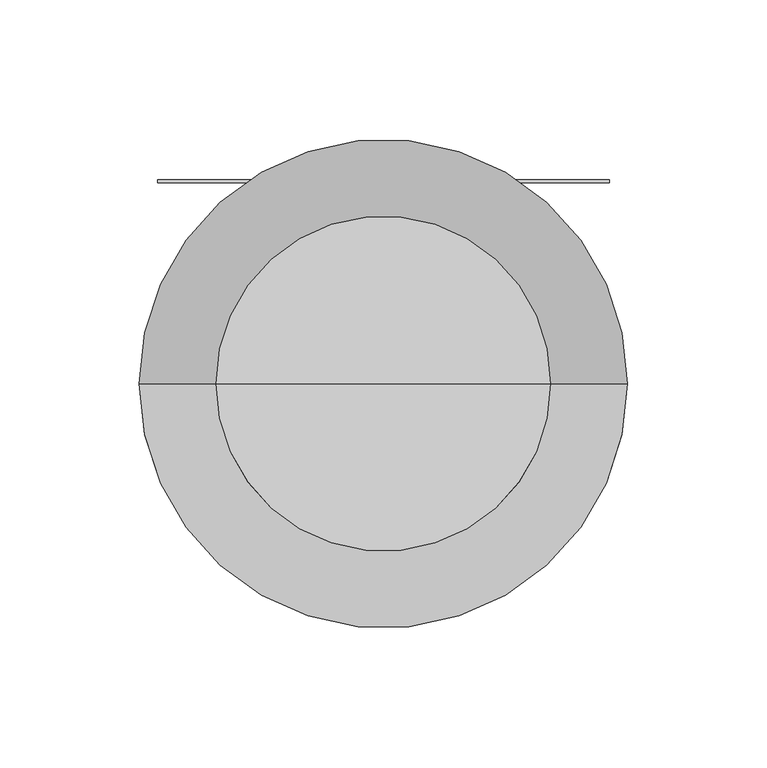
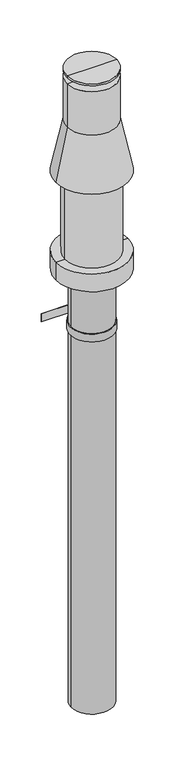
"""IFC4 building model written with IfcOpenShell, lengths in millimetres: air terminal geometry, NLRS_57_AIR_WPB_Skyline_M&G : EasySafe Skyline 3000 PP 60/100 XL Zwart."""

from ifc_helpers import new_model, si_unit, point, frame, origin, origin_2d, place, context, project, spatial, polyline, circle_curve, trimmed, segment, composite_curve, outline, extrude, source, transform, mapped, element, save
from ifc_brep_helpers import plane_surface, cylinder_surface, revolved_surface, advanced_brep


def air_terminal_e32a4596(model_context):
    return source(origin(), model_context, "Body", "SolidModel", [
        extrude(outline(composite_curve([segment(trimmed(circle_curve(origin_2d(), 50.0), [point((-50.0, 0.0))], [point((50.0, 0.0))], False, "CARTESIAN"), True, "CONTINUOUS"), segment(trimmed(circle_curve(origin_2d(), 50.0), [point((50.0, 0.0))], [point((-50.0, 0.0))], False, "CARTESIAN"), True, "CONTINUOUS")], self_intersect=False)), frame((0.0, 0.0, -1110.0), z_axis=(0.0, 0.0, 1.0), x_axis=(1.0, 0.0, 0.0)), (0.0, 0.0, 1.0), 1110.0),
        advanced_brep(
        [(60.0, 0.0, 514.0), (-60.0, 0.0, 514.0), (0.0, 0.0, 514.0), (87.5, 0.0, 250.0), (-87.5, 0.0, 250.0), (-60.0, 0.0, 382.0), (60.0, 0.0, 382.0), (0.0, 0.0, 250.0), (60.0, 0.0, 509.0), (-60.0, 0.0, 509.0), (8.0, 0.0, 499.0), (-8.0, 0.0, 499.0), (8.0, 0.0, 494.0), (-8.0, 0.0, 494.0), (60.0, 0.0, 494.0), (-60.0, 0.0, 494.0)],
        [
            (0, 1, circle_curve(frame((0.0, 0.0, 514.0), z_axis=(0.0, 0.0, 1.0), x_axis=(-1.0, 0.0, 0.0)), 60.0)),
            (1, 2),
            (2, 0),
            (1, 0, circle_curve(frame((0.0, 0.0, 514.0), z_axis=(0.0, 0.0, 1.0), x_axis=(-1.0, 0.0, 0.0)), 60.0)),
            (3, 4, circle_curve(frame((0.0, 0.0, 250.0), z_axis=(0.0, 0.0, 1.0), x_axis=(-1.0, 0.0, 0.0)), 87.5)),
            (4, 5),
            (5, 6, circle_curve(frame((0.0, 0.0, 382.0), z_axis=(0.0, 0.0, -1.0), x_axis=(-1.0, 0.0, 0.0)), 60.0)),
            (6, 3),
            (4, 3, circle_curve(frame((0.0, 0.0, 250.0), z_axis=(0.0, 0.0, 1.0), x_axis=(-1.0, 0.0, 0.0)), 87.5)),
            (6, 5, circle_curve(frame((0.0, 0.0, 382.0), z_axis=(0.0, 0.0, -1.0), x_axis=(-1.0, 0.0, 0.0)), 60.0)),
            (7, 4),
            (3, 7),
            (8, 9, circle_curve(frame((0.0, 0.0, 509.0), z_axis=(0.0, 0.0, 1.0), x_axis=(-1.0, 0.0, 0.0)), 60.0)),
            (9, 1),
            (0, 8),
            (9, 8, circle_curve(frame((0.0, 0.0, 509.0), z_axis=(0.0, 0.0, 1.0), x_axis=(-1.0, 0.0, 0.0)), 60.0)),
            (10, 11, circle_curve(frame((0.0, 0.0, 499.0), z_axis=(0.0, 0.0, 1.0), x_axis=(-1.0, 0.0, 0.0)), 8.0)),
            (11, 9),
            (8, 10),
            (11, 10, circle_curve(frame((0.0, 0.0, 499.0), z_axis=(0.0, 0.0, 1.0), x_axis=(-1.0, 0.0, 0.0)), 8.0)),
            (12, 13, circle_curve(frame((0.0, 0.0, 494.0), z_axis=(0.0, 0.0, 1.0), x_axis=(-1.0, 0.0, 0.0)), 8.0)),
            (13, 11),
            (10, 12),
            (13, 12, circle_curve(frame((0.0, 0.0, 494.0), z_axis=(0.0, 0.0, 1.0), x_axis=(-1.0, 0.0, 0.0)), 8.0)),
            (14, 15, circle_curve(frame((0.0, 0.0, 494.0), z_axis=(0.0, 0.0, 1.0), x_axis=(-1.0, 0.0, 0.0)), 60.0)),
            (15, 13),
            (12, 14),
            (15, 14, circle_curve(frame((0.0, 0.0, 494.0), z_axis=(0.0, 0.0, 1.0), x_axis=(-1.0, 0.0, 0.0)), 60.0)),
            (5, 15),
            (14, 6),
        ],
        [
            plane_surface(frame((0.0, 0.0, 514.0), z_axis=(0.0, 0.0, 1.0), x_axis=(-1.0, 0.0, 0.0))),
            revolved_surface(polyline([(-60.0, 0.0, 382.0), (-87.5, 0.0, 250.0)]), (0.0, 0.0, 2217.3150031), (0.0, 0.0, -1.0)),
            plane_surface(frame((0.0, 0.0, 250.0), z_axis=(0.0, 0.0, -1.0), x_axis=(-1.0, 0.0, 0.0))),
            cylinder_surface(frame((0.0, 0.0, 2217.3150031), z_axis=(0.0, 0.0, -1.0), x_axis=(-1.0, 0.0, 0.0)), 60.0),
            revolved_surface(polyline([(-60.0, 0.0, 509.0), (-8.0, 0.0, 499.0)]), (0.0, 0.0, 2217.3150031), (0.0, 0.0, -1.0)),
            cylinder_surface(frame((0.0, 0.0, 2217.3150031), z_axis=(0.0, 0.0, -1.0), x_axis=(-1.0, 0.0, 0.0)), 8.0),
            plane_surface(frame((0.0, 0.0, 494.0), z_axis=(0.0, 0.0, 1.0), x_axis=(-1.0, 0.0, 0.0))),
        ],
        [
            (0, [[1, 2, 3]]),
            (0, [[4, -3, -2]]),
            (1, [[5, 6, 7, 8]]),
            (1, [[9, -8, 10, -6]]),
            (2, [[11, -5, 12]]),
            (2, [[-12, -9, -11]]),
            (3, [[13, 14, -1, 15]]),
            (3, [[16, -15, -4, -14]]),
            (4, [[17, 18, -13, 19]]),
            (4, [[20, -19, -16, -18]]),
            (5, [[21, 22, -17, 23]]),
            (5, [[24, -23, -20, -22]]),
            (6, [[25, 26, -21, 27]]),
            (6, [[28, -27, -24, -26]]),
            (3, [[-7, 29, -25, 30]]),
            (3, [[-10, -30, -28, -29]]),
        ],
    ),
        advanced_brep(
        [(65.0, 0.0, 250.0), (-65.0, 0.0, 250.0), (0.0, 0.0, 250.0), (87.5, 0.0, 0.0), (-87.5, 0.0, 0.0), (-87.5, 0.0, 45.0), (87.5, 0.0, 45.0), (0.0, 0.0, 0.0), (65.0, 0.0, 45.0), (-65.0, 0.0, 45.0)],
        [
            (0, 1, circle_curve(frame((0.0, 0.0, 250.0), z_axis=(0.0, 0.0, 1.0), x_axis=(-1.0, 0.0, 0.0)), 65.0)),
            (1, 2),
            (2, 0),
            (1, 0, circle_curve(frame((0.0, 0.0, 250.0), z_axis=(0.0, 0.0, 1.0), x_axis=(-1.0, 0.0, 0.0)), 65.0)),
            (3, 4, circle_curve(frame((0.0, 0.0, 0.0), z_axis=(0.0, 0.0, 1.0), x_axis=(-1.0, 0.0, 0.0)), 87.5)),
            (4, 5),
            (5, 6, circle_curve(frame((0.0, 0.0, 45.0), z_axis=(0.0, 0.0, -1.0), x_axis=(-1.0, 0.0, 0.0)), 87.5)),
            (6, 3),
            (4, 3, circle_curve(frame((0.0, 0.0, 0.0), z_axis=(0.0, 0.0, 1.0), x_axis=(-1.0, 0.0, 0.0)), 87.5)),
            (6, 5, circle_curve(frame((0.0, 0.0, 45.0), z_axis=(0.0, 0.0, -1.0), x_axis=(-1.0, 0.0, 0.0)), 87.5)),
            (7, 4),
            (3, 7),
            (8, 9, circle_curve(frame((0.0, 0.0, 45.0), z_axis=(0.0, 0.0, 1.0), x_axis=(-1.0, 0.0, 0.0)), 65.0)),
            (9, 1),
            (0, 8),
            (9, 8, circle_curve(frame((0.0, 0.0, 45.0), z_axis=(0.0, 0.0, 1.0), x_axis=(-1.0, 0.0, 0.0)), 65.0)),
            (5, 9),
            (8, 6),
        ],
        [
            plane_surface(frame((0.0, 0.0, 250.0), z_axis=(0.0, 0.0, 1.0), x_axis=(-1.0, 0.0, 0.0))),
            cylinder_surface(frame((0.0, 0.0, 2261.3150031), z_axis=(0.0, 0.0, -1.0), x_axis=(-1.0, 0.0, 0.0)), 87.5),
            plane_surface(frame((0.0, 0.0, 0.0), z_axis=(0.0, 0.0, -1.0), x_axis=(-1.0, 0.0, 0.0))),
            cylinder_surface(frame((0.0, 0.0, 2261.3150031), z_axis=(0.0, 0.0, -1.0), x_axis=(-1.0, 0.0, 0.0)), 65.0),
            plane_surface(frame((0.0, 0.0, 45.0), z_axis=(0.0, 0.0, 1.0), x_axis=(-1.0, 0.0, 0.0))),
        ],
        [
            (0, [[1, 2, 3]]),
            (0, [[4, -3, -2]]),
            (1, [[5, 6, 7, 8]]),
            (1, [[9, -8, 10, -6]]),
            (2, [[11, -5, 12]]),
            (2, [[-12, -9, -11]]),
            (3, [[13, 14, -1, 15]]),
            (3, [[16, -15, -4, -14]]),
            (4, [[-7, 17, -13, 18]]),
            (4, [[-10, -18, -16, -17]]),
        ],
    ),
        extrude(outline(composite_curve([segment(polyline([(1.8164811, 49.9669931), (1.8164811, 73.1677389), (81.0701934, 73.1677389), (81.0701934, 72.1677389), (3.816042, 72.1677389), (3.816042, 52.3634882)]), True, "CONTINUOUS"), segment(trimmed(circle_curve(origin_2d(), 52.5023531), [point((3.816042, 52.3634882))], [point((-3.6692432, 52.3739795))], False, "CARTESIAN"), True, "CONTINUOUS"), segment(polyline([(-3.6692432, 52.3739795), (-3.6692432, 72.1677389), (-80.9233946, 72.1677389), (-80.9233946, 73.1677389), (-1.8164811, 73.1677389), (-1.8164811, 49.9669931)]), True, "CONTINUOUS"), segment(trimmed(circle_curve(origin_2d(), 50.0), [point((-1.8164811, 49.9669931))], [point((1.8164811, 49.9669931))], True, "CARTESIAN"), True, "CONTINUOUS")], self_intersect=False)), frame((0.0, 0.0, -153.4259715), z_axis=(0.0, 0.0, 1.0), x_axis=(1.0, 0.0, 0.0)), (0.0, 0.0, 1.0), 20.0),
    ])


if __name__ == "__main__":
    model = new_model("IFC4")
    model_context = context("Model", 3, world=origin())
    ifc_project = project(units=[si_unit("LENGTHUNIT", "METRE", prefix="MILLI")], contexts=[model_context])
    site = spatial("IfcSite", under=ifc_project)
    building = spatial("IfcBuilding", under=site)
    placement = place(None, origin())
    air_terminal_shape = air_terminal_e32a4596(model_context)
    element("IfcAirTerminal", 1, ObjectType="NLRS_57_AIR_WPB_Skyline_M&G : EasySafe Skyline 3000 PP 60/100 XL Zwart", at=placement, inside=building, context=model_context, shape_type="MappedRepresentation", body=[
        mapped(air_terminal_shape, transform((0.0, 0.0, 0.0), x_axis=(1.0, 0.0, 0.0), y_axis=(0.0, 1.0, 0.0), z_axis=(0.0, 0.0, 1.0))),
    ])
    save(model, "model.ifc")
